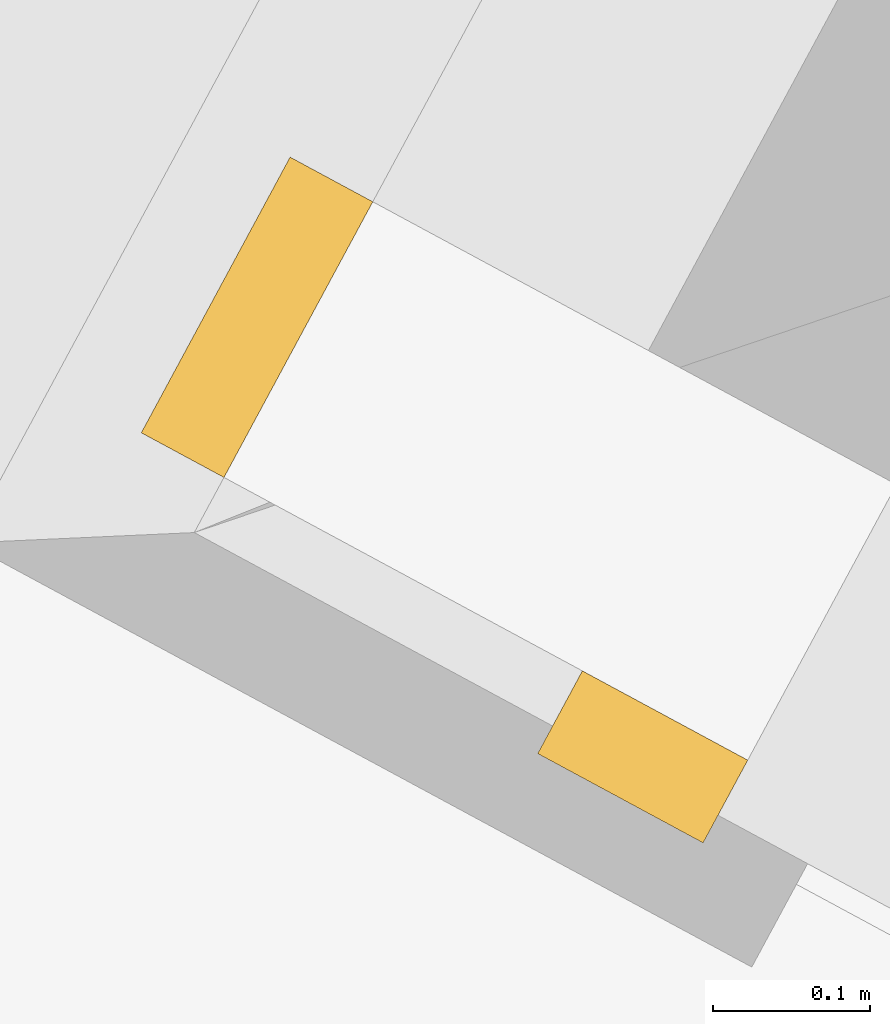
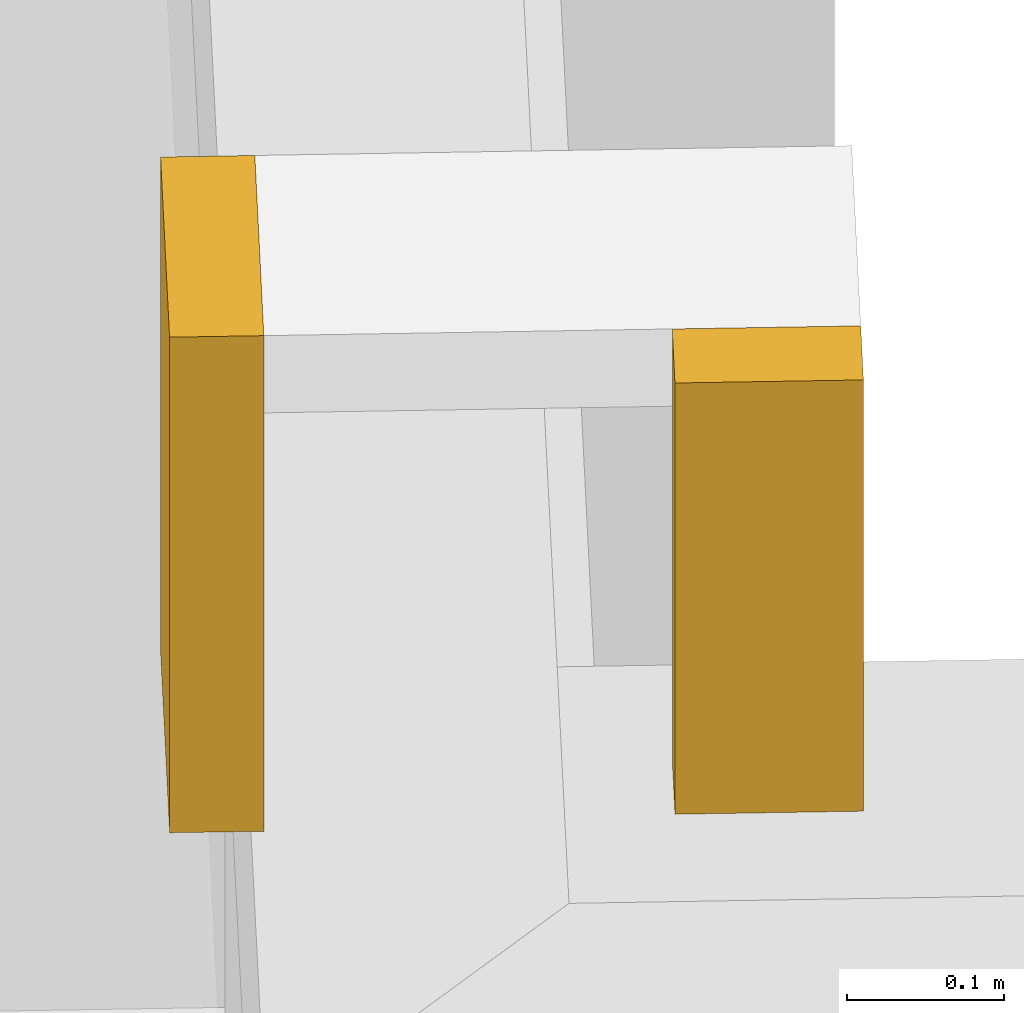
# One storey, part 13 of 36: 2 coverings.
"""IFC2X3 building model written with IfcOpenShell, lengths in metres."""

from ifc_helpers import new_model, entity, si_unit, converted_unit, derived_unit, money_unit, direction, frame, origin_with_axes, place, context, subcontext, project, spatial, polyline, outline, extrude, material, type_object, element, save


model = new_model("IFC2X3")

# Units and contexts
model_context = context("Model", 3, precision=1e-05, world=origin_with_axes(), true_north=direction((0.0, 1.0)))
body_context = subcontext(model_context, "Body", "Model", "MODEL_VIEW")
ifc_project = project(units=[si_unit("LENGTHUNIT", "METRE"), si_unit("AREAUNIT", "SQUARE_METRE"), si_unit("VOLUMEUNIT", "CUBIC_METRE"), converted_unit("PLANEANGLEUNIT", "DEGREE", entity("IfcPlaneAngleMeasure", 0.0174532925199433), si_unit("PLANEANGLEUNIT", "RADIAN"), dimensions=[0, 0, 0, 0, 0, 0, 0]), money_unit("EUR"), converted_unit("TIMEUNIT", "Year", entity("IfcTimeMeasure", 31556926.0), si_unit("TIMEUNIT", "SECOND"), dimensions=[0, 0, 1, 0, 0, 0, 0]), si_unit("MASSUNIT", "GRAM", prefix="KILO"), si_unit("THERMODYNAMICTEMPERATUREUNIT", "DEGREE_CELSIUS"), si_unit("LUMINOUSINTENSITYUNIT", "LUMEN"), si_unit("ENERGYUNIT", "JOULE", prefix="MEGA"), derived_unit("THERMALCONDUCTANCEUNIT", [(si_unit("POWERUNIT", "WATT"), 1), (si_unit("LENGTHUNIT", "METRE"), -1), (si_unit("THERMODYNAMICTEMPERATUREUNIT", "KELVIN"), -1)]), derived_unit("SPECIFICHEATCAPACITYUNIT", [(si_unit("ENERGYUNIT", "JOULE"), 1), (si_unit("MASSUNIT", "GRAM", prefix="KILO"), -1), (si_unit("THERMODYNAMICTEMPERATUREUNIT", "KELVIN"), -1)]), derived_unit("MASSDENSITYUNIT", [(si_unit("MASSUNIT", "GRAM", prefix="KILO"), 1), (si_unit("VOLUMEUNIT", "CUBIC_METRE"), -1)])], contexts=[model_context])

# Site, building, storey
site_placement = place(None, frame((-3.949935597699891, 1.740105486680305, 0.0), z_axis=(0.0, 0.0, 1.0), x_axis=(0.8799804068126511, -0.475009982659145, 0.0)))
site = spatial("IfcSite", under=ifc_project, at=site_placement, Name="Gelände", CompositionType="ELEMENT")
building_placement = place(site_placement, origin_with_axes())
building = spatial("IfcBuilding", under=site, at=building_placement, Name="Gebäude", CompositionType="ELEMENT")
storey_placement = place(building_placement, origin_with_axes())
storey = spatial("IfcBuildingStorey", under=building, at=storey_placement, Name="Erdgeschoss", CompositionType="ELEMENT", Elevation=0.0)

# Coverings
ifc_material = material(Name="_SIWH - Dämmung, hart Mineralwolle")
covering_type = type_object("IfcCoveringType", Name="_SIWH - Dämmung, hart Mineralwolle 60", PredefinedType="INSULATION")
covering_1_placement = place(storey_placement, frame((17.42749037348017, 14.88304610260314, 4.150000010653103), z_axis=(0.0, 0.0, 1.0), x_axis=(0.9999999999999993, -3.601551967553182e-08, 0.0)))
element("IfcCovering", 1, at=covering_1_placement, inside=storey, type_object=covering_type, material=ifc_material, Name="A-Wand035", PredefinedType="INSULATION", context=body_context, shape_type="SweptSolid", body=[
    extrude(outline(polyline([(0.0, -0.0600000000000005), (0.1199856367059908, -0.0600000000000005), (0.1199856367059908, 0.0), (0.0, 0.0), (0.0, -0.0600000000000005)])), origin_with_axes(), (0.0, 0.0, 1.0), 0.3349999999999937),
])
covering_2_placement = place(storey_placement, frame((17.16747599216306, 15.0830461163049, 4.100000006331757), z_axis=(0.0, 0.0, 1.0), x_axis=(4.847162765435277e-06, -0.9999999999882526, 0.0)))
element("IfcCovering", 2, at=covering_2_placement, inside=storey, type_object=covering_type, material=ifc_material, Name="A-Wand035", PredefinedType="INSULATION", context=body_context, shape_type="SweptSolid", body=[
    extrude(outline(polyline([(0.0, -0.06000000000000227), (0.2000000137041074, -0.06000000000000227), (0.2000000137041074, 0.0), (0.0, 0.0), (0.0, -0.06000000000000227)])), origin_with_axes(), (0.0, 0.0, 1.0), 0.3850000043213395),
])

save(model, "model.ifc")
